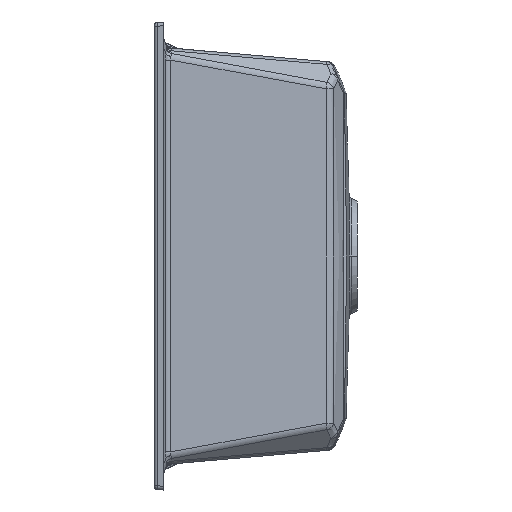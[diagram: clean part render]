
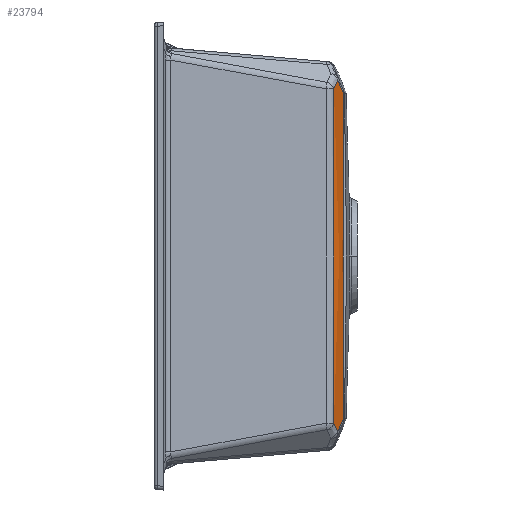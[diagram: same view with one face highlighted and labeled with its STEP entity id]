
A CAD part, left-side view. The second image highlights one B-rep face of the part: STEP entity #23794.
In plain terms, the highlighted free-form (B-spline) face has degree [3, 3] with [4, 7] control points.
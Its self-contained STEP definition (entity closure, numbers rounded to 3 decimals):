
#395 = ORIENTED_EDGE ( 'NONE', *, *, #9408, .F. ) ;
#759 = CARTESIAN_POINT ( 'NONE',  ( 73.054, -194.036, -221.079 ) ) ;
#796 = EDGE_CURVE ( 'NONE', #26766, #33994, #28009, .T. ) ;
#1282 = CARTESIAN_POINT ( 'NONE',  ( 68.202, -189.835, -428.221 ) ) ;
#1810 = CARTESIAN_POINT ( 'NONE',  ( 56.671, -186.198, -123.229 ) ) ;
#1956 = CARTESIAN_POINT ( 'NONE',  ( 73.205, -194.157, -313.508 ) ) ;
#2099 = CARTESIAN_POINT ( 'NONE',  ( 48.498, -183.932, -186.615 ) ) ;
#2383 = CARTESIAN_POINT ( 'NONE',  ( 64.847, -188.196, -440.142 ) ) ;
#3291 = B_SPLINE_CURVE_WITH_KNOTS ( 'NONE', 3,
 ( #9017, #41423, #28738, #38424 ),
 .UNSPECIFIED., .F., .F.,
 ( 4, 4 ),
 ( 0., 1. ),
 .UNSPECIFIED. ) ;
#3595 = CARTESIAN_POINT ( 'NONE',  ( 73.048, -193.662, -322.292 ) ) ;
#4003 = VERTEX_POINT ( 'NONE', #26979 ) ;
#4250 = CARTESIAN_POINT ( 'NONE',  ( 63.42, -187.762, -433.021 ) ) ;
#4804 = VERTEX_POINT ( 'NONE', #14602 ) ;
#4875 = ORIENTED_EDGE ( 'NONE', *, *, #6073, .F. ) ;
#5392 = CARTESIAN_POINT ( 'NONE',  ( 48.46, -181.687, -428.73 ) ) ;
#6073 = EDGE_CURVE ( 'NONE', #4003, #26766, #9199, .T. ) ;
#7125 = CARTESIAN_POINT ( 'NONE',  ( 72.995, -192.215, -408.979 ) ) ;
#8598 = CARTESIAN_POINT ( 'NONE',  ( 56.671, -186.199, -376.755 ) ) ;
#8877 = CARTESIAN_POINT ( 'NONE',  ( 64.97, -190.749, -249.985 ) ) ;
#9017 = CARTESIAN_POINT ( 'NONE',  ( 48.46, -181.687, -71.27 ) ) ;
#9199 = B_SPLINE_CURVE_WITH_KNOTS ( 'NONE', 3,
 ( #15649, #35123, #31693, #28584, #38411, #18898, #26284, #759, #39828, #29570, #10547, #36700, #3595, #39968, #20319, #17212, #7125, #16655 ),
 .UNSPECIFIED., .F., .F.,
 ( 4, 2, 2, 2, 2, 2, 2, 2, 4 ),
 ( 0., 0.125, 0.25, 0.375, 0.5, 0.625, 0.75, 0.875, 1. ),
 .UNSPECIFIED. ) ;
#9408 = EDGE_CURVE ( 'NONE', #33994, #4804, #20631, .T. ) ;
#10547 = CARTESIAN_POINT ( 'NONE',  ( 73.054, -194.036, -278.924 ) ) ;
#11300 = B_SPLINE_CURVE_WITH_KNOTS ( 'NONE', 3,
 ( #20703, #17440, #27087, #23959 ),
 .UNSPECIFIED., .F., .F.,
 ( 4, 4 ),
 ( 0., 1. ),
 .UNSPECIFIED. ) ;
#11871 = CARTESIAN_POINT ( 'NONE',  ( 64.933, -189.606, -123.149 ) ) ;
#12046 = CARTESIAN_POINT ( 'NONE',  ( 51.853, -183.022, -431.76 ) ) ;
#12149 = CARTESIAN_POINT ( 'NONE',  ( 73.196, -193.015, -376.916 ) ) ;
#14602 = CARTESIAN_POINT ( 'NONE',  ( 48.46, -181.687, -428.73 ) ) ;
#14900 = CARTESIAN_POINT ( 'NONE',  ( 48.567, -182.982, -130.802 ) ) ;
#15040 = CARTESIAN_POINT ( 'NONE',  ( 48.46, -181.687, -71.27 ) ) ;
#15120 = CARTESIAN_POINT ( 'NONE',  ( 56.57, -184.788, -59.952 ) ) ;
#15649 = CARTESIAN_POINT ( 'NONE',  ( 72.984, -191.907, -76.58 ) ) ;
#16655 = CARTESIAN_POINT ( 'NONE',  ( 72.984, -191.907, -423.42 ) ) ;
#17212 = CARTESIAN_POINT ( 'NONE',  ( 73.003, -192.505, -394.535 ) ) ;
#17440 = CARTESIAN_POINT ( 'NONE',  ( 63.421, -187.762, -66.979 ) ) ;
#17970 = CARTESIAN_POINT ( 'NONE',  ( 48.409, -182.79, -123.31 ) ) ;
#18249 = CARTESIAN_POINT ( 'NONE',  ( 64.97, -190.749, -186.512 ) ) ;
#18315 = CARTESIAN_POINT ( 'NONE',  ( 48.46, -181.687, -428.73 ) ) ;
#18498 = ORIENTED_EDGE ( 'NONE', *, *, #796, .F. ) ;
#18898 = CARTESIAN_POINT ( 'NONE',  ( 73.048, -193.662, -177.71 ) ) ;
#20319 = CARTESIAN_POINT ( 'NONE',  ( 73.021, -193.031, -365.643 ) ) ;
#20631 = B_SPLINE_CURVE_WITH_KNOTS ( 'NONE', 3,
 ( #37780, #27941, #12046, #5392 ),
 .UNSPECIFIED., .F., .F.,
 ( 4, 4 ),
 ( 0., 1. ),
 .UNSPECIFIED. ) ;
#20703 = CARTESIAN_POINT ( 'NONE',  ( 58.639, -185.688, -62.18 ) ) ;
#21232 = CARTESIAN_POINT ( 'NONE',  ( 64.933, -189.607, -376.836 ) ) ;
#21370 = CARTESIAN_POINT ( 'NONE',  ( 64.847, -188.196, -59.859 ) ) ;
#21648 = CARTESIAN_POINT ( 'NONE',  ( 48.498, -183.933, -313.354 ) ) ;
#21736 = B_SPLINE_CURVE_WITH_KNOTS ( 'NONE', 3,
 ( #18315, #30377, #30521, #33796, #14900, #15040 ),
 .UNSPECIFIED., .F., .F.,
 ( 4, 2, 4 ),
 ( 0., 0.5, 1. ),
 .UNSPECIFIED. ) ;
#23207 = VERTEX_POINT ( 'NONE', #24357 ) ;
#23392 = CARTESIAN_POINT ( 'NONE',  ( 72.984, -191.907, -423.42 ) ) ;
#23635 = B_SPLINE_SURFACE_WITH_KNOTS ( 'NONE', 3, 3, ( 
 ( #40304, #40730, #21648, #31020, #2099, #17970, #24900 ),
 ( #28187, #8598, #28324, #40863, #31303, #1810, #15120 ),
 ( #2383, #21232, #41011, #8877, #18249, #11871, #21370 ),
 ( #31576, #12149, #1956, #24617, #34878, #24758, #28049 ) ),
 .UNSPECIFIED., .F., .F., .F.,
 ( 4, 4 ),
 ( 4, 3, 4 ),
 ( 0., 0.955 ),
 ( 0.699, 0.889, 1.079 ),
 .UNSPECIFIED. ) ;
#23794 = ADVANCED_FACE ( 'NONE', ( #37128 ), #23635, .T. ) ;
#23894 = EDGE_CURVE ( 'NONE', #39062, #23207, #3291, .T. ) ;
#23959 = CARTESIAN_POINT ( 'NONE',  ( 72.984, -191.907, -76.58 ) ) ;
#24357 = CARTESIAN_POINT ( 'NONE',  ( 58.639, -185.688, -62.18 ) ) ;
#24617 = CARTESIAN_POINT ( 'NONE',  ( 73.205, -194.157, -249.985 ) ) ;
#24758 = CARTESIAN_POINT ( 'NONE',  ( 73.196, -193.015, -123.068 ) ) ;
#24900 = CARTESIAN_POINT ( 'NONE',  ( 48.292, -181.379, -60.045 ) ) ;
#26284 = CARTESIAN_POINT ( 'NONE',  ( 73.053, -193.82, -192.165 ) ) ;
#26766 = VERTEX_POINT ( 'NONE', #32155 ) ;
#26979 = CARTESIAN_POINT ( 'NONE',  ( 72.984, -191.907, -76.58 ) ) ;
#27026 = CARTESIAN_POINT ( 'NONE',  ( 58.638, -185.688, -437.82 ) ) ;
#27087 = CARTESIAN_POINT ( 'NONE',  ( 68.202, -189.835, -71.779 ) ) ;
#27590 = EDGE_CURVE ( 'NONE', #4804, #39062, #21736, .T. ) ;
#27941 = CARTESIAN_POINT ( 'NONE',  ( 55.246, -184.355, -434.79 ) ) ;
#28009 = B_SPLINE_CURVE_WITH_KNOTS ( 'NONE', 3,
 ( #23392, #1282, #4250, #33634 ),
 .UNSPECIFIED., .F., .F.,
 ( 4, 4 ),
 ( 0., 1. ),
 .UNSPECIFIED. ) ;
#28049 = CARTESIAN_POINT ( 'NONE',  ( 73.125, -191.604, -59.765 ) ) ;
#28187 = CARTESIAN_POINT ( 'NONE',  ( 56.57, -184.788, -440.049 ) ) ;
#28324 = CARTESIAN_POINT ( 'NONE',  ( 56.734, -187.341, -313.405 ) ) ;
#28584 = CARTESIAN_POINT ( 'NONE',  ( 73.021, -193.031, -134.357 ) ) ;
#28738 = CARTESIAN_POINT ( 'NONE',  ( 55.246, -184.355, -65.21 ) ) ;
#28784 = ORIENTED_EDGE ( 'NONE', *, *, #27590, .F. ) ;
#29569 = EDGE_CURVE ( 'NONE', #23207, #4003, #11300, .T. ) ;
#29570 = CARTESIAN_POINT ( 'NONE',  ( 73.047, -194.092, -264.464 ) ) ;
#30377 = CARTESIAN_POINT ( 'NONE',  ( 48.567, -182.982, -369.2 ) ) ;
#30521 = CARTESIAN_POINT ( 'NONE',  ( 48.648, -183.994, -309.62 ) ) ;
#31020 = CARTESIAN_POINT ( 'NONE',  ( 48.498, -183.932, -249.985 ) ) ;
#31303 = CARTESIAN_POINT ( 'NONE',  ( 56.734, -187.34, -186.564 ) ) ;
#31576 = CARTESIAN_POINT ( 'NONE',  ( 73.125, -191.604, -440.235 ) ) ;
#31693 = CARTESIAN_POINT ( 'NONE',  ( 73.003, -192.505, -105.464 ) ) ;
#31958 = CARTESIAN_POINT ( 'NONE',  ( 48.46, -181.687, -71.27 ) ) ;
#32155 = CARTESIAN_POINT ( 'NONE',  ( 72.984, -191.907, -423.42 ) ) ;
#33007 = ORIENTED_EDGE ( 'NONE', *, *, #29569, .F. ) ;
#33634 = CARTESIAN_POINT ( 'NONE',  ( 58.638, -185.688, -437.82 ) ) ;
#33796 = CARTESIAN_POINT ( 'NONE',  ( 48.648, -183.994, -190.379 ) ) ;
#33994 = VERTEX_POINT ( 'NONE', #27026 ) ;
#34878 = CARTESIAN_POINT ( 'NONE',  ( 73.205, -194.157, -186.461 ) ) ;
#35123 = CARTESIAN_POINT ( 'NONE',  ( 72.995, -192.215, -91.021 ) ) ;
#36700 = CARTESIAN_POINT ( 'NONE',  ( 73.053, -193.82, -307.838 ) ) ;
#37128 = FACE_OUTER_BOUND ( 'NONE', #41543, .T. ) ;
#37780 = CARTESIAN_POINT ( 'NONE',  ( 58.638, -185.688, -437.82 ) ) ;
#38411 = CARTESIAN_POINT ( 'NONE',  ( 73.031, -193.267, -148.806 ) ) ;
#38424 = CARTESIAN_POINT ( 'NONE',  ( 58.639, -185.688, -62.18 ) ) ;
#39062 = VERTEX_POINT ( 'NONE', #31958 ) ;
#39828 = CARTESIAN_POINT ( 'NONE',  ( 73.047, -194.092, -235.539 ) ) ;
#39968 = CARTESIAN_POINT ( 'NONE',  ( 73.031, -193.267, -351.195 ) ) ;
#40304 = CARTESIAN_POINT ( 'NONE',  ( 48.292, -181.379, -439.955 ) ) ;
#40616 = ORIENTED_EDGE ( 'NONE', *, *, #23894, .F. ) ;
#40730 = CARTESIAN_POINT ( 'NONE',  ( 48.409, -182.79, -376.675 ) ) ;
#40863 = CARTESIAN_POINT ( 'NONE',  ( 56.734, -187.341, -249.985 ) ) ;
#41011 = CARTESIAN_POINT ( 'NONE',  ( 64.97, -190.749, -313.457 ) ) ;
#41423 = CARTESIAN_POINT ( 'NONE',  ( 51.853, -183.022, -68.24 ) ) ;
#41543 = EDGE_LOOP ( 'NONE', ( #40616, #28784, #395, #18498, #4875, #33007 ) ) ;
